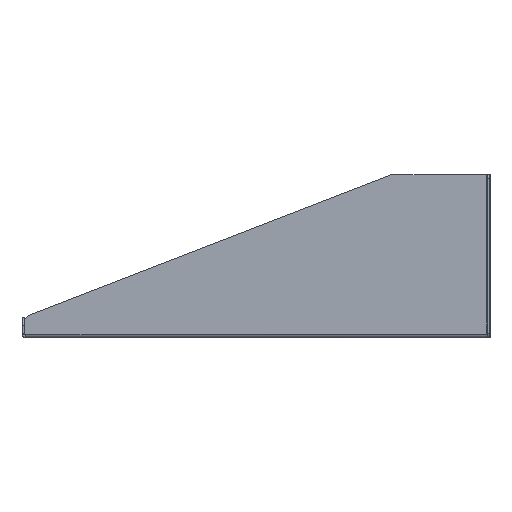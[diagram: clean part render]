
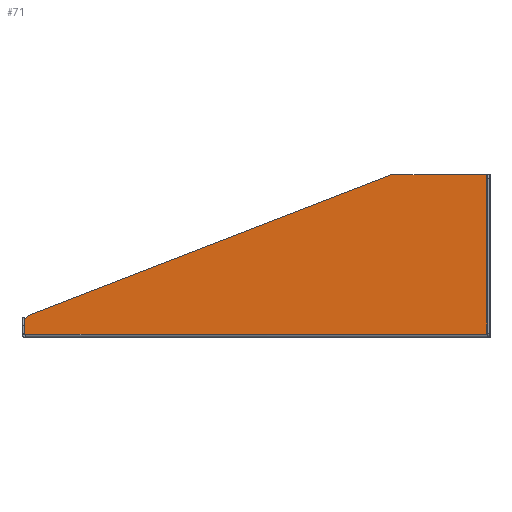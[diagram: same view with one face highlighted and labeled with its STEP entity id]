
A CAD part, left-side view. The second image highlights one B-rep face of the part: STEP entity #71.
In plain terms, the highlighted planar face has unit normal (-1, 0, 0).
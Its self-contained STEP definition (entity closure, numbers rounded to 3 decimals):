
#71 = ADVANCED_FACE( '', ( #925 ), #926, .F. );
#925 = FACE_OUTER_BOUND( '', #2423, .T. );
#926 = PLANE( '', #2424 );
#2423 = EDGE_LOOP( '', ( #4779, #4780, #4781, #4782, #4783, #4784, #4785, #4786 ) );
#2424 = AXIS2_PLACEMENT_3D( '', #4787, #4788, #4789 );
#4779 = ORIENTED_EDGE( '', *, *, #9818, .T. );
#4780 = ORIENTED_EDGE( '', *, *, #9820, .T. );
#4781 = ORIENTED_EDGE( '', *, *, #9827, .T. );
#4782 = ORIENTED_EDGE( '', *, *, #9828, .F. );
#4783 = ORIENTED_EDGE( '', *, *, #9829, .F. );
#4784 = ORIENTED_EDGE( '', *, *, #9830, .T. );
#4785 = ORIENTED_EDGE( '', *, *, #9831, .T. );
#4786 = ORIENTED_EDGE( '', *, *, #9832, .T. );
#4787 = CARTESIAN_POINT( '', ( -222.25, -189.586, 1.587 ) );
#4788 = DIRECTION( '', ( 1., 0., 0. ) );
#4789 = DIRECTION( '', ( 0., 0., -1. ) );
#9818 = EDGE_CURVE( '', #12558, #12556, #12559, .T. );
#9820 = EDGE_CURVE( '', #12556, #12535, #12561, .T. );
#9827 = EDGE_CURVE( '', #12535, #12519, #12571, .T. );
#9828 = EDGE_CURVE( '', #12572, #12519, #12573, .T. );
#9829 = EDGE_CURVE( '', #12574, #12572, #12575, .T. );
#9830 = EDGE_CURVE( '', #12574, #12576, #12577, .T. );
#9831 = EDGE_CURVE( '', #12576, #12578, #12579, .T. );
#9832 = EDGE_CURVE( '', #12578, #12558, #12580, .F. );
#12519 = VERTEX_POINT( '', #15921 );
#12535 = VERTEX_POINT( '', #15947 );
#12556 = VERTEX_POINT( '', #16010 );
#12558 = VERTEX_POINT( '', #16013 );
#12559 = LINE( '', #16014, #16015 );
#12561 = CIRCLE( '', #16018, 1.397 );
#12571 = LINE( '', #16063, #16064 );
#12572 = VERTEX_POINT( '', #16065 );
#12573 = LINE( '', #16066, #16067 );
#12574 = VERTEX_POINT( '', #16068 );
#12575 = LINE( '', #16069, #16070 );
#12576 = VERTEX_POINT( '', #16071 );
#12577 = LINE( '', #16072, #16073 );
#12578 = VERTEX_POINT( '', #16074 );
#12579 = LINE( '', #16075, #16076 );
#12580 = LINE( '', #16077, #16078 );
#15921 = CARTESIAN_POINT( '', ( -222.25, -188.671, 2.743 ) );
#15947 = CARTESIAN_POINT( '', ( -222.25, 187.214, 2.743 ) );
#16010 = CARTESIAN_POINT( '', ( -222.25, 187.755, 2.963 ) );
#16013 = CARTESIAN_POINT( '', ( -222.25, 187.755, 14.531 ) );
#16014 = CARTESIAN_POINT( '', ( -222.25, 187.755, 132.537 ) );
#16015 = VECTOR( '', #19510, 1000. );
#16018 = AXIS2_PLACEMENT_3D( '', #19512, #19513, #19514 );
#16063 = CARTESIAN_POINT( '', ( -222.25, 189.586, 2.743 ) );
#16064 = VECTOR( '', #19525, 1000. );
#16065 = CARTESIAN_POINT( '', ( -222.25, -188.671, 2.745 ) );
#16066 = CARTESIAN_POINT( '', ( -222.25, -188.671, 2.745 ) );
#16067 = VECTOR( '', #19526, 1000. );
#16068 = CARTESIAN_POINT( '', ( -222.25, -188.671, 132.537 ) );
#16069 = CARTESIAN_POINT( '', ( -222.25, -188.671, 2.745 ) );
#16070 = VECTOR( '', #19527, 1000. );
#16071 = CARTESIAN_POINT( '', ( -222.25, -111.481, 132.537 ) );
#16072 = CARTESIAN_POINT( '', ( -222.25, -189.586, 132.537 ) );
#16073 = VECTOR( '', #19528, 1000. );
#16074 = CARTESIAN_POINT( '', ( -222.25, 184.402, 17.884 ) );
#16075 = CARTESIAN_POINT( '', ( -222.25, -135.271, 141.756 ) );
#16076 = VECTOR( '', #19529, 1000. );
#16077 = CARTESIAN_POINT( '', ( -222.25, 184.402, 17.884 ) );
#16078 = VECTOR( '', #19530, 1000. );
#19510 = DIRECTION( '', ( 0., 0., -1. ) );
#19512 = CARTESIAN_POINT( '', ( -222.25, 187.998, 1.587 ) );
#19513 = DIRECTION( '', ( 1., 0., 0. ) );
#19514 = DIRECTION( '', ( 0., 1., 0. ) );
#19525 = DIRECTION( '', ( 0., -1., 0. ) );
#19526 = DIRECTION( '', ( 0., 0., -1. ) );
#19527 = DIRECTION( '', ( 0., 0., -1. ) );
#19528 = DIRECTION( '', ( 0., 1., 0. ) );
#19529 = DIRECTION( '', ( 0., 0.932, -0.361 ) );
#19530 = DIRECTION( '', ( 0., -0.707, 0.707 ) );
